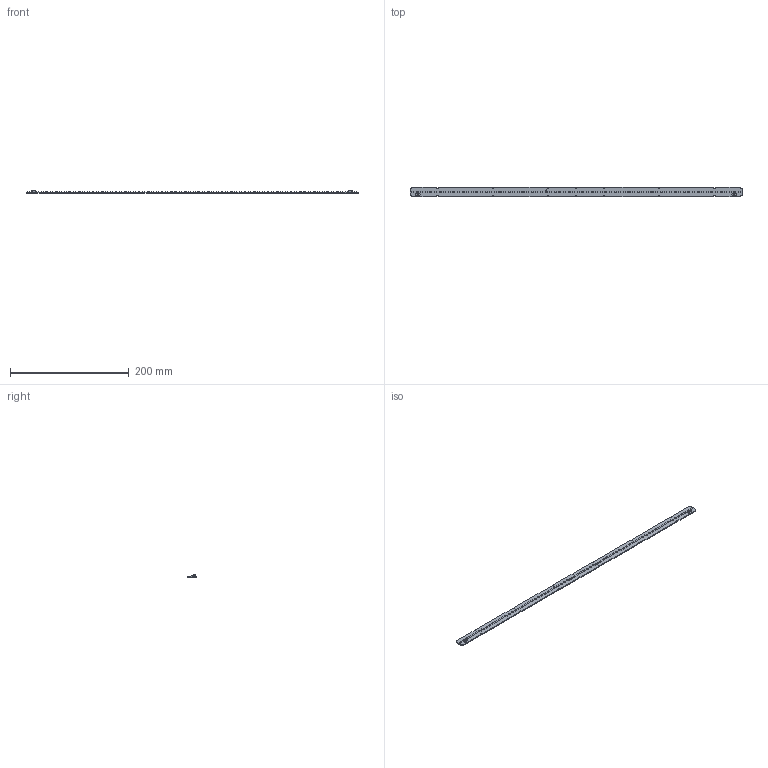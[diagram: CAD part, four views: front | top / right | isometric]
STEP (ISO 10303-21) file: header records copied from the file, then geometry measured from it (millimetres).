
FILE_DESCRIPTION((''),'2;1');
FILE_NAME('16208879_LLE-G5-16X560-HV','2021-04-15T14:10:21',('Bernhard.Fink'),(''),'CREO PARAMETRIC BY PTC INC, 2019164','CREO PARAMETRIC BY PTC INC, 2019164','');
FILE_SCHEMA(('CONFIG_CONTROL_DESIGN'));
Products named in the file (1): 16208879_LLE-G5-16X560-HV
Bounding box: 559.6 x 15.8 x 4.35 mm (x, y, z)
Volume: 14970.1 mm3; surface area: 20204.5 mm2
Topology: 1 solids, 1 shells, 2381 faces, 6890 edges, 4592 vertices
Faces by surface type: plane 2027, cylinder 350, torus 4
Entity records: 81398 total; most frequent: CARTESIAN_POINT 19641, ORIENTED_EDGE 13780, DIRECTION 11184, EDGE_CURVE 6890, VECTOR 6178, LINE 6178, VERTEX_POINT 4592, AXIS2_PLACEMENT_3D 2503
